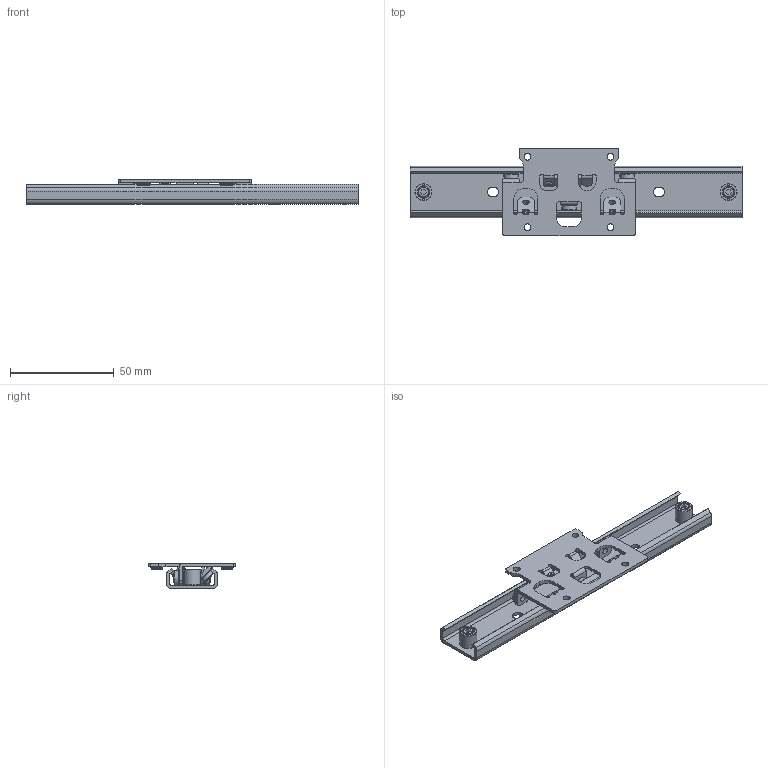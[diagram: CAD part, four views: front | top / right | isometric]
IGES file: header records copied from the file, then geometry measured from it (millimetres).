
Global section: file name:  ; native system: Kubotek KeyCreator; preprocessor: KCM Version 1.1.28; author: KeyCreator•p{ž; organization: Self; date: 20160805.053006; units: millimetre
Bounding box: 160 x 42 x 12 mm (x, y, z)
Surface area: 20801.7 mm2 (no closed solid volume)
Topology: 0 solids, 0 shells, 414 faces, 1896 edges, 1744 vertices
Faces by surface type: revolution 236, plane 178
